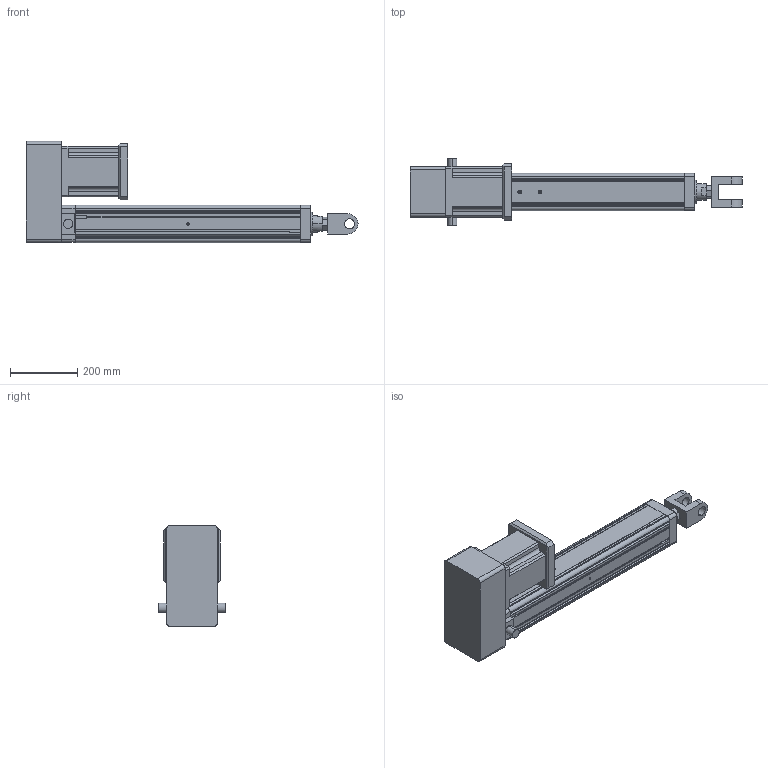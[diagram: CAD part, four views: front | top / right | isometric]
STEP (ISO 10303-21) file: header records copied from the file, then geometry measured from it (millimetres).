
FILE_DESCRIPTION (( 'STEP AP203' ), '1' );
FILE_NAME ('YRJ110-L500-H4K4.STEP', '2020-01-06T01:27:50', ( 'User' ), ( 'China' ), 'SwSTEP 2.0', 'SolidWorks 2016', '' );
FILE_SCHEMA (( 'CONFIG_CONTROL_DESIGN' ));
Length unit declared in the file: millimetre
Products named in the file (7): 095-100俴最倰第; 萇儂碟-110; 142熬厒儂; H5-110-1; K4-110; H5-110-2; YRJ110-L500-H4K4
Assembly tree (6 placements, depth 2):
  YRJ110-L500-H4K4
    095-100俴最倰第
    142熬厒儂
    H5-110-1
    H5-110-2
    萇儂碟-110
    K4-110
Bounding box: 986 x 200 x 300.5 mm (x, y, z)
Volume: 12831402.2 mm3; surface area: 1106288.8 mm2
Topology: 6 solids, 6 shells, 331 faces, 904 edges, 585 vertices
Faces by surface type: plane 188, cylinder 116, cone 27
Entity records: 11430 total; most frequent: CARTESIAN_POINT 2153, DIRECTION 1793, ORIENTED_EDGE 1776, EDGE_CURVE 888, VECTOR 619, LINE 619, AXIS2_PLACEMENT_3D 587, VERTEX_POINT 585
